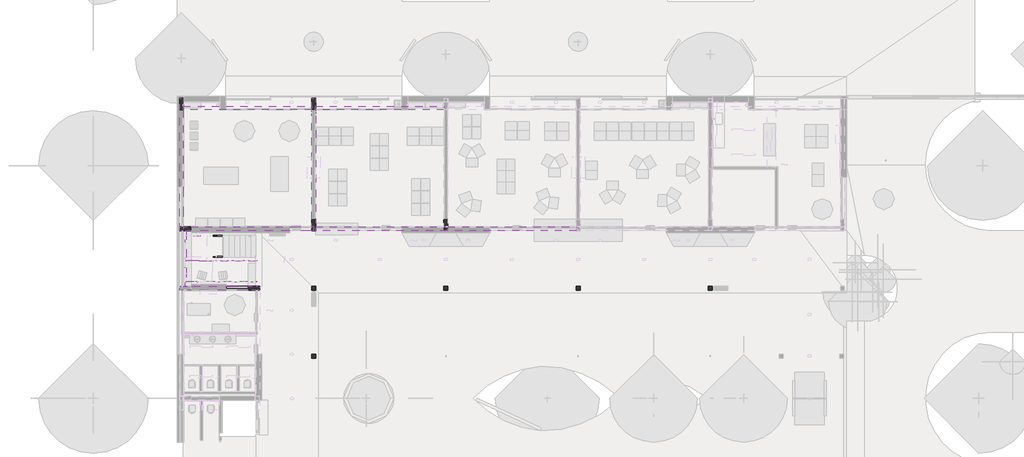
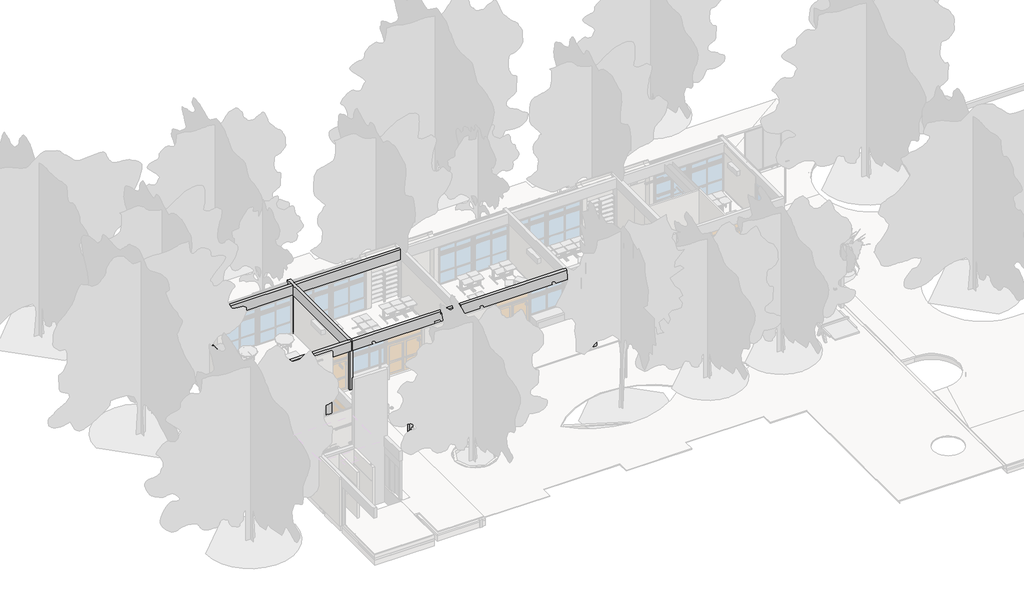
# One storey, part 14 of 22: 34 beams, 11 columns.
"""IFC4 building model written with IfcOpenShell, lengths in millimetres."""

from ifc_helpers import new_model, si_unit, point, frame, frame_2d, origin, place, context, project, spatial, polyline, circle_curve, trimmed, segment, composite_curve, outline, extrude, faceted_brep, transform, mapped, element, save
from components import perfil_upn_120_pet_55000a03, perfil_upn_120_pet_2a6b5f43, perfil_upn_120_pet_00277be9, perfil_upn_120_pet_e11cd0c3, perfil_upn_120_pet_56031ed0, perfil_upn_120_pet_017f4d01, perfil_upn_120_pet_e785cb7a

model = new_model("IFC4")

# Units and contexts
model_context = context("Model", 3, world=origin())
ifc_project = project(units=[si_unit("LENGTHUNIT", "METRE", prefix="MILLI")], contexts=[model_context])

# Site, building, storey
site = spatial("IfcSite", under=ifc_project)
building = spatial("IfcBuilding", under=site)
storey = spatial("IfcBuildingStorey", under=building, Name="PLanta baja", Elevation=0.0)

# Beams
placement = place(None, origin())
perfil_upn_120_pet_shape = perfil_upn_120_pet_55000a03(model_context)
element("IfcBeam", 1, ObjectType="ARES-I-AC-UPN-Perfil acero-PET : Perfil UPN-120-PET", at=placement, inside=storey, context=model_context, shape_type="MappedRepresentation", body=[
    mapped(perfil_upn_120_pet_shape, transform((3910.6625244, 24456.2304035, 1673.8421053), x_axis=(-1.0, 0.0, 0.0), y_axis=(0.0, -1.0, 0.0), z_axis=(0.0, 0.0, 1.0))),
])
perfil_upn_120_pet_2_shape = perfil_upn_120_pet_2a6b5f43(model_context)
element("IfcBeam", 2, ObjectType="ARES-I-AC-UPN-Perfil acero-PET : Perfil UPN-120-PET", at=placement, inside=storey, context=model_context, shape_type="MappedRepresentation", body=[
    mapped(perfil_upn_120_pet_2_shape, transform((5740.2815783, 24456.2304035, 782.5278227), x_axis=(0.8547743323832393, 0.0, -0.518999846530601), y_axis=(0.0, 1.0, 0.0), z_axis=(0.5189998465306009, 0.0, 0.8547743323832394))),
])
perfil_upn_120_pet_3_shape = perfil_upn_120_pet_00277be9(model_context)
element("IfcBeam", 3, ObjectType="ARES-I-AC-UPN-Perfil acero-PET : Perfil UPN-120-PET", at=placement, inside=storey, context=model_context, shape_type="MappedRepresentation", body=[
    mapped(perfil_upn_120_pet_3_shape, transform((5740.2815783, 23364.2304035, 782.5278227), x_axis=(0.8547743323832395, 0.0, -0.5189998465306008), y_axis=(0.0, 1.0, 0.0), z_axis=(0.5189998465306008, 0.0, 0.8547743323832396))),
])
perfil_upn_120_pet_4_shape = perfil_upn_120_pet_e11cd0c3(model_context)
element("IfcBeam", 4, ObjectType="ARES-I-AC-UPN-Perfil acero-PET : Perfil UPN-120-PET", at=placement, inside=storey, context=model_context, shape_type="MappedRepresentation", body=[
    mapped(perfil_upn_120_pet_4_shape, transform((4217.871391, 23151.2304035, 1673.8421053), x_axis=(-1.0, 0.0, 0.0), y_axis=(0.0, -1.0, 0.0), z_axis=(0.0, 0.0, 1.0))),
])
perfil_upn_120_pet_5_shape = perfil_upn_120_pet_56031ed0(model_context)
element("IfcBeam", 5, ObjectType="ARES-I-AC-UPN-Perfil acero-PET : Perfil UPN-120-PET", at=placement, inside=storey, context=model_context, shape_type="MappedRepresentation", body=[
    mapped(perfil_upn_120_pet_5_shape, transform((6062.1716203, 23151.2304035, 2367.281948), x_axis=(0.8547306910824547, 0.0, 0.5190717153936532), y_axis=(0.0, 1.0000000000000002, 0.0), z_axis=(-0.5190717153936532, 0.0, 0.8547306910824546))),
])
perfil_upn_120_pet_6_shape = perfil_upn_120_pet_017f4d01(model_context)
element("IfcBeam", 6, ObjectType="ARES-I-AC-UPN-Perfil acero-PET : Perfil UPN-120-PET", at=placement, inside=storey, context=model_context, shape_type="MappedRepresentation", body=[
    mapped(perfil_upn_120_pet_6_shape, transform((4112.4902739, 22064.2304035, 1673.8421053), x_axis=(-1.0, 0.0, 0.0), y_axis=(0.0, -1.0, 0.0), z_axis=(0.0, 0.0, 1.0))),
])
perfil_upn_120_pet_7_shape = perfil_upn_120_pet_e785cb7a(model_context)
element("IfcBeam", 7, ObjectType="ARES-I-AC-UPN-Perfil acero-PET : Perfil UPN-120-PET", at=placement, inside=storey, context=model_context, shape_type="MappedRepresentation", body=[
    mapped(perfil_upn_120_pet_7_shape, transform((5899.0301815, 22064.2304035, 2268.207342), x_axis=(0.8547306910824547, 0.0, 0.5190717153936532), y_axis=(0.0, 1.0000000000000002, 0.0), z_axis=(-0.5190717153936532, 0.0, 0.8547306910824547))),
])
element("IfcBeam", 8, ObjectType="ARES-I-AC-UPN-Perfil acero-PET : Perfil UPN-140-PET", at=placement, inside=storey, context=model_context, shape_type="SweptSolid", body=[
    extrude(outline(composite_curve([segment(polyline([(1733.8421053, 3549.7173693), (1733.8421053, 3489.7173693), (1730.8580797, 3489.7173693)]), True, "CONTINUOUS"), segment(trimmed(circle_curve(frame_2d((1730.8580797, 3494.7173693)), 5.0), [point((1730.8580797, 3489.7173693))], [point((1725.8740034, 3494.3186432))], False, "CARTESIAN"), True, "CONTINUOUS"), segment(polyline([(1725.8740034, 3494.3186432), (1722.7383091, 3533.5148215)]), True, "CONTINUOUS"), segment(trimmed(circle_curve(frame_2d((1712.7701563, 3532.7173693)), 10.0), [point((1722.7383091, 3533.5148215))], [point((1712.7701563, 3542.7173693))], True, "CARTESIAN"), True, "CONTINUOUS"), segment(polyline([(1712.7701563, 3542.7173693), (1614.9140542, 3542.7173693)]), True, "CONTINUOUS"), segment(trimmed(circle_curve(frame_2d((1614.9140542, 3532.7173693)), 10.0), [point((1614.9140542, 3542.7173693))], [point((1604.9459014, 3533.5148215))], True, "CARTESIAN"), True, "CONTINUOUS"), segment(polyline([(1604.9459014, 3533.5148215), (1601.8102072, 3494.3186432)]), True, "CONTINUOUS"), segment(trimmed(circle_curve(frame_2d((1596.8261308, 3494.7173693)), 5.0), [point((1601.8102072, 3494.3186432))], [point((1596.8261308, 3489.7173693))], False, "CARTESIAN"), True, "CONTINUOUS"), segment(polyline([(1596.8261308, 3489.7173693), (1593.8421053, 3489.7173693), (1593.8421053, 3549.7173693), (1733.8421053, 3549.7173693)]), True, "CONTINUOUS")], self_intersect=False)), frame((0.0, 21819.2304035, 0.0), z_axis=(0.0, 1.0, 0.0), x_axis=(0.0, 0.0, 1.0)), (0.0, 0.0, 1.0), 2901.0),
])
element("IfcBeam", 9, ObjectType="ARES-I-HA-Viga rectangular-PET : Viga-15x36cm-PET", at=placement, inside=storey, context=model_context, shape_type="Brep", body=[
    faceted_brep([(10088.7423693, 28245.2304035, -50.0), (10088.7423693, 28095.2304035, -50.0), (10088.7423693, 28095.2304035, -160.0), (10088.7423693, 28095.2304035, -410.0), (10088.7423693, 28245.2304035, -410.0), (10088.7423693, 28245.2304035, -160.0), (6813.7173693, 28245.2304035, -50.0), (6663.7173693, 28245.2304035, -50.0), (3388.7173693, 28245.2304035, -50.0), (3388.7173693, 28095.2304035, -50.0), (6663.7173693, 28095.2304035, -50.0), (6813.7173693, 28095.2304035, -50.0), (3388.7173693, 28095.2304035, -160.0), (3388.7173693, 28095.2304035, -410.0), (6663.7173693, 28095.2304035, -410.0), (6813.7173693, 28095.2304035, -410.0), (3388.7173693, 28245.2304035, -410.0), (6663.7173693, 28245.2304035, -410.0), (6813.7173693, 28245.2304035, -410.0), (3388.7173693, 28245.2304035, -160.0)], [[[0, 1, 2, 3, 4, 5]], [[1, 0, 6, 7, 8, 9, 10, 11]], [[2, 1, 11, 10, 9, 12, 13, 14, 15, 3]], [[4, 3, 15, 14, 13, 16, 17, 18]], [[5, 4, 18, 17, 16, 19, 8, 7, 6, 0]], [[9, 8, 19, 16, 13, 12]]]),
])
element("IfcBeam", 10, ObjectType="ARES-I-HA-Viga rectangular-PET : Viga-15x36cm-PET", at=placement, inside=storey, context=model_context, shape_type="Brep", body=[
    faceted_brep([(6663.7173693, 24920.2304035, -50.0), (6813.7173693, 24920.2304035, -50.0), (6813.7173693, 28095.2304035, -50.0), (6663.7173693, 28095.2304035, -50.0), (6663.7173693, 28095.2304035, -160.0), (6663.7173693, 28095.2304035, -410.0), (6663.7173693, 24920.2304035, -410.0), (6663.7173693, 24920.2304035, -160.0), (6813.7173693, 28095.2304035, -410.0), (6813.7173693, 24920.2304035, -410.0), (6813.7173693, 28095.2304035, -160.0), (6813.7173693, 24920.2304035, -160.0)], [[[0, 1, 2, 3]], [[3, 4, 5, 6, 7, 0]], [[5, 8, 9, 6]], [[8, 10, 2, 1, 11, 9]], [[5, 4, 3, 2, 10, 8]], [[1, 0, 7, 6, 9, 11]]]),
    faceted_brep([(6663.7173693, 28245.2304035, -50.0), (6663.7173693, 28245.2304035, -160.0), (6663.7173693, 28245.2304035, -410.0), (6813.7173693, 28245.2304035, -410.0), (6813.7173693, 28245.2304035, -160.0), (6813.7173693, 28245.2304035, -50.0), (6663.7173693, 31420.2304035, -50.0), (6663.7173693, 31420.2304035, -160.0), (6663.7173693, 31420.2304035, -410.0), (6813.7173693, 31420.2304035, -410.0), (6813.7173693, 31420.2304035, -160.0), (6813.7173693, 31420.2304035, -50.0)], [[[0, 1, 2, 3, 4, 5]], [[2, 1, 0, 6, 7, 8]], [[3, 2, 8, 9]], [[5, 4, 3, 9, 10, 11]], [[8, 7, 6, 11, 10, 9]], [[5, 11, 6, 0]]]),
])
element("IfcBeam", 11, ObjectType="ARES-I-HA-Viga rectangular-PET : Viga-15x36cm-PET", at=placement, inside=storey, context=model_context, shape_type="Brep", body=[
    faceted_brep([(16988.7423694, 28245.2304035, -50.0), (16988.7423694, 28095.2304035, -50.0), (16988.7423694, 28095.2304035, -160.0), (16988.7423694, 28095.2304035, -410.0), (16988.7423694, 28245.2304035, -410.0), (16988.7423694, 28245.2304035, -160.0), (13713.7173693, 28245.2304035, -50.0), (13563.7173693, 28245.2304035, -50.0), (10288.7173694, 28245.2304035, -50.0), (10288.7173694, 28095.2304035, -50.0), (13563.7173693, 28095.2304035, -50.0), (13713.7173693, 28095.2304035, -50.0), (10288.7173694, 28095.2304035, -410.0), (13563.7173693, 28095.2304035, -410.0), (13713.7173693, 28095.2304035, -410.0), (10288.7173694, 28095.2304035, -160.0), (10288.7173694, 28245.2304035, -410.0), (13563.7173693, 28245.2304035, -410.0), (13713.7173693, 28245.2304035, -410.0), (10288.7173694, 28245.2304035, -160.0)], [[[0, 1, 2, 3, 4, 5]], [[1, 0, 6, 7, 8, 9, 10, 11]], [[12, 13, 14, 3, 2, 1, 11, 10, 9, 15]], [[4, 3, 14, 13, 12, 16, 17, 18]], [[4, 18, 17, 16, 19, 8, 7, 6, 0, 5]], [[9, 8, 19, 16, 12, 15]]]),
])
element("IfcBeam", 12, ObjectType="ARES-I-HA-Viga rectangular-PET : Viga-15x36cm-PET", at=placement, inside=storey, context=model_context, shape_type="Brep", body=[
    faceted_brep([(13713.7173693, 28095.2304035, -50.0), (13563.7173693, 28095.2304035, -50.0), (13563.7173693, 24920.2304035, -50.0), (13713.7173693, 24920.2304035, -50.0), (13563.7173693, 28095.2304035, -160.0), (13563.7173693, 28095.2304035, -410.0), (13563.7173693, 24920.2304035, -410.0), (13563.7173693, 24920.2304035, -160.0), (13713.7173693, 28095.2304035, -410.0), (13713.7173693, 24920.2304035, -410.0), (13713.7173693, 24920.2304035, -160.0), (13713.7173693, 28095.2304035, -160.0)], [[[0, 1, 2, 3]], [[2, 1, 4, 5, 6, 7]], [[5, 8, 9, 6]], [[0, 3, 10, 9, 8, 11]], [[8, 5, 4, 1, 0, 11]], [[3, 2, 7, 6, 9, 10]]]),
    faceted_brep([(13563.7173693, 28245.2304035, -410.0), (13713.7173693, 28245.2304035, -410.0), (13713.7173693, 28245.2304035, -160.0), (13713.7173693, 28245.2304035, -50.0), (13563.7173693, 28245.2304035, -50.0), (13563.7173693, 28245.2304035, -160.0), (13563.7173693, 31420.2304035, -50.0), (13563.7173693, 31420.2304035, -160.0), (13563.7173693, 31420.2304035, -410.0), (13713.7173693, 31420.2304035, -410.0), (13713.7173693, 31420.2304035, -160.0), (13713.7173693, 31420.2304035, -50.0)], [[[0, 1, 2, 3, 4, 5]], [[4, 6, 7, 8, 0, 5]], [[1, 0, 8, 9]], [[1, 9, 10, 11, 3, 2]], [[4, 3, 11, 6]], [[9, 8, 7, 6, 11, 10]]]),
])
element("IfcBeam", 13, ObjectType="ARES-I-HA-Viga rectangular-PET : Viga-15x36cm-PET", at=placement, inside=storey, context=model_context, shape_type="Brep", body=[
    faceted_brep([(13713.7173693, 24720.2304035, -80.0), (13563.7173693, 24720.2304035, -80.0), (13563.7173693, 21820.2304035, -80.0), (13713.7173693, 21820.2304035, -80.0), (13563.7173693, 24720.2304035, -190.0), (13563.7173693, 24720.2304035, -440.0), (13563.7173693, 21820.2304035, -440.0), (13563.7173693, 21820.2304035, -190.0), (13713.7173693, 24720.2304035, -440.0), (13713.7173693, 21820.2304035, -440.0), (13713.7173693, 21820.2304035, -190.0), (13713.7173693, 24720.2304035, -190.0)], [[[0, 1, 2, 3]], [[2, 1, 4, 5, 6, 7]], [[5, 8, 9, 6]], [[0, 3, 10, 9, 8, 11]], [[1, 0, 11, 8, 5, 4]], [[3, 2, 7, 6, 9, 10]]]),
])
element("IfcBeam", 14, ObjectType="ARES-I-HA-Viga rectangular-PET : Viga-15x36cm-PET", at=placement, inside=storey, context=model_context, shape_type="Brep", body=[
    faceted_brep([(20613.7173694, 24720.2304035, -80.0), (20463.7173694, 24720.2304035, -80.0), (20463.7173694, 21820.2304035, -80.0), (20613.7173694, 21820.2304035, -80.0), (20463.7173694, 24720.2304035, -190.0), (20463.7173694, 24720.2304035, -440.0), (20463.7173694, 21820.2304035, -440.0), (20463.7173694, 21820.2304035, -190.0), (20613.7173694, 24720.2304035, -440.0), (20613.7173694, 21820.2304035, -440.0), (20613.7173694, 21820.2304035, -190.0), (20613.7173694, 24720.2304035, -190.0)], [[[0, 1, 2, 3]], [[2, 1, 4, 5, 6, 7]], [[5, 8, 9, 6]], [[0, 3, 10, 9, 8, 11]], [[1, 0, 11, 8, 5, 4]], [[3, 2, 7, 6, 9, 10]]]),
])
element("IfcBeam", 15, ObjectType="ARES-I-HA-Viga rectangular-PET : Viga-15x36cm-PET", at=placement, inside=storey, context=model_context, shape_type="Brep", body=[
    faceted_brep([(27513.7173693, 24720.2304035, -80.0), (27363.7173693, 24720.2304035, -80.0), (27363.7173693, 21820.2304035, -80.0), (27513.7173693, 21820.2304035, -80.0), (27363.7173693, 24720.2304035, -190.0), (27363.7173693, 24720.2304035, -440.0), (27363.7173693, 21820.2304035, -440.0), (27363.7173693, 21820.2304035, -190.0), (27513.7173693, 24720.2304035, -440.0), (27513.7173693, 21820.2304035, -440.0), (27513.7173693, 21820.2304035, -190.0), (27513.7173693, 24720.2304035, -190.0)], [[[0, 1, 2, 3]], [[2, 1, 4, 5, 6, 7]], [[5, 8, 9, 6]], [[0, 3, 10, 9, 8, 11]], [[1, 0, 11, 8, 5, 4]], [[3, 2, 7, 6, 9, 10]]]),
])
element("IfcBeam", 16, ObjectType="ARES-I-HA-Viga rectangular-PET : Viga-20x36cm-PET", at=placement, inside=storey, context=model_context, shape_type="Brep", body=[
    faceted_brep([(10088.7173694, 18070.2304035, -80.0), (10088.7173694, 18270.2304035, -80.0), (7368.7173694, 18270.2304035, -80.0), (7368.7173694, 18070.2304035, -80.0), (10088.7173694, 18270.2304035, -190.0), (10088.7173694, 18270.2304035, -440.0), (7368.7173694, 18270.2304035, -440.0), (7368.7173694, 18270.2304035, -190.0), (10088.7173694, 18070.2304035, -440.0), (7368.7173694, 18070.2304035, -440.0), (10088.7173694, 18070.2304035, -190.0), (7368.7173694, 18070.2304035, -190.0)], [[[0, 1, 2, 3]], [[1, 4, 5, 6, 7, 2]], [[5, 8, 9, 6]], [[8, 10, 0, 3, 11, 9]], [[8, 5, 4, 1, 0, 10]], [[3, 2, 7, 6, 9, 11]]]),
])
element("IfcBeam", 17, ObjectType="ARES-I-HA-Viga rectangular-PET : Viga-20x36cm-PET", at=placement, inside=storey, context=model_context, shape_type="Brep", body=[
    faceted_brep([(7368.7173694, 21820.2304035, -80.0), (7368.7173694, 21620.2304035, -80.0), (10088.7173694, 21620.2304035, -80.0), (10088.7173694, 21820.2304035, -80.0), (10088.7173694, 21820.2304035, -190.0), (10088.7173694, 21820.2304035, -440.0), (7368.7173694, 21820.2304035, -440.0), (7368.7173694, 21820.2304035, -190.0), (7368.7173694, 21620.2304035, -440.0), (10088.7173694, 21620.2304035, -440.0), (7368.7173694, 21620.2304035, -190.0), (10088.7173694, 21620.2304035, -190.0)], [[[0, 1, 2, 3]], [[0, 3, 4, 5, 6, 7]], [[8, 6, 5, 9]], [[2, 1, 10, 8, 9, 11]], [[6, 8, 10, 1, 0, 7]], [[3, 2, 11, 9, 5, 4]]]),
])
element("IfcBeam", 18, ObjectType="ARES-I-HA-Viga rectangular-PET : Viga-20x50cm-PET", at=placement, inside=storey, context=model_context, shape_type="Brep", body=[
    faceted_brep([(10288.7173694, 24720.2304035, -80.0), (10088.7173694, 24720.2304035, -80.0), (10088.7173694, 21820.2304035, -80.0), (10288.7173694, 21820.2304035, -80.0), (10088.7173694, 24720.2304035, -190.0), (10088.7173694, 24720.2304035, -540.0), (10088.7173694, 24720.2304035, -580.0), (10088.7173694, 21820.2304035, -580.0), (10088.7173694, 21820.2304035, -190.0), (10288.7173694, 24720.2304035, -580.0), (10288.7173694, 21820.2304035, -580.0), (10288.7173694, 21820.2304035, -190.0), (10288.7173694, 21820.2304035, -540.0), (10288.7173694, 24720.2304035, -540.0), (10288.7173694, 24720.2304035, -190.0)], [[[0, 1, 2, 3]], [[2, 1, 4, 5, 6, 7, 8]], [[6, 9, 10, 7]], [[0, 3, 11, 12, 10, 9, 13, 14]], [[9, 6, 5, 4, 1, 0, 14, 13]], [[3, 2, 8, 7, 10, 12, 11]]]),
])
element("IfcBeam", 19, ObjectType="ARES-I-HA-Viga rectangular-PET : Viga-20x50cm-PET", at=placement, inside=storey, context=model_context, shape_type="Brep", body=[
    faceted_brep([(16988.7173694, 21720.2304035, -80.0), (17188.7173694, 21720.2304035, -80.0), (17188.7173694, 21820.2304035, -80.0), (17188.7173694, 24720.2304035, -80.0), (16988.7173694, 24720.2304035, -80.0), (16988.7173694, 21820.2304035, -80.0), (16988.7173694, 21720.2304035, -580.0), (16988.7173694, 24720.2304035, -190.0), (16988.7173694, 24720.2304035, -540.0), (16988.7173694, 24720.2304035, -580.0), (16988.7173694, 21820.2304035, -580.0), (17188.7173694, 21720.2304035, -580.0), (17188.7173694, 24720.2304035, -580.0), (17188.7173694, 21820.2304035, -580.0), (17188.7173694, 24720.2304035, -540.0), (17188.7173694, 24720.2304035, -190.0)], [[[0, 1, 2, 3, 4, 5]], [[6, 0, 5, 4, 7, 8, 9, 10]], [[11, 6, 10, 9, 12, 13]], [[1, 11, 13, 12, 14, 15, 3, 2]], [[1, 0, 6, 11]], [[12, 9, 8, 7, 4, 3, 15, 14]]]),
])
element("IfcBeam", 20, ObjectType="ARES-I-HA-Viga rectangular-PET : Viga-20x50cm-PET", at=placement, inside=storey, context=model_context, shape_type="Brep", body=[
    faceted_brep([(23888.7173694, 21720.2304035, -80.0), (24088.7173694, 21720.2304035, -80.0), (24088.7173694, 21820.2304035, -80.0), (24088.7173694, 24720.2304035, -80.0), (23888.7173694, 24720.2304035, -80.0), (23888.7173694, 21820.2304035, -80.0), (23888.7173694, 21720.2304035, -580.0), (23888.7173694, 24720.2304035, -190.0), (23888.7173694, 24720.2304035, -540.0), (23888.7173694, 24720.2304035, -580.0), (23888.7173694, 21820.2304035, -580.0), (24088.7173694, 21720.2304035, -580.0), (24088.7173694, 24720.2304035, -580.0), (24088.7173694, 21820.2304035, -580.0), (24088.7173694, 24720.2304035, -540.0), (24088.7173694, 24720.2304035, -190.0)], [[[0, 1, 2, 3, 4, 5]], [[6, 0, 5, 4, 7, 8, 9, 10]], [[11, 6, 10, 9, 12, 13]], [[1, 11, 13, 12, 14, 15, 3, 2]], [[1, 0, 6, 11]], [[12, 9, 8, 7, 4, 3, 15, 14]]]),
])
element("IfcBeam", 21, ObjectType="ARES-I-HA-Viga rectangular-PET : Viga-20x50cm-PET", at=placement, inside=storey, context=model_context, shape_type="Brep", body=[
    faceted_brep([(30788.7173693, 21720.2304035, -80.0), (30988.7173693, 21720.2304035, -80.0), (30988.7173693, 21820.2304035, -80.0), (30988.7173693, 24720.2304035, -80.0), (30788.7173693, 24720.2304035, -80.0), (30788.7173693, 21820.2304035, -80.0), (30788.7173693, 21720.2304035, -580.0), (30788.7173693, 24720.2304035, -190.0), (30788.7173693, 24720.2304035, -540.0), (30788.7173693, 24720.2304035, -580.0), (30788.7173693, 21820.2304035, -580.0), (30988.7173693, 21720.2304035, -580.0), (30988.7173693, 24720.2304035, -580.0), (30988.7173693, 21820.2304035, -580.0), (30988.7173693, 24720.2304035, -540.0), (30988.7173693, 24720.2304035, -190.0)], [[[0, 1, 2, 3, 4, 5]], [[6, 0, 5, 4, 7, 8, 9, 10]], [[11, 6, 10, 9, 12, 13]], [[1, 11, 13, 12, 14, 15, 3, 2]], [[1, 0, 6, 11]], [[12, 9, 8, 7, 4, 3, 15, 14]]]),
])
element("IfcBeam", 22, ObjectType="ARES-I-HA-Viga rectangular-PET : Viga-20x51cm-PET", at=placement, inside=storey, context=model_context, shape_type="Brep", body=[
    faceted_brep([(7168.7173694, 19220.2304035, -560.0), (7368.7173694, 19220.2304035, -560.0), (7368.7173694, 19220.2304035, -80.0), (7368.7173694, 19220.2304035, -50.0), (7171.4173693, 19220.2304035, -50.0), (7171.4173693, 19220.2304035, -80.0), (7171.4173693, 19220.2304035, -430.0), (7168.7173694, 19220.2304035, -430.0), (7368.7173694, 21620.2304035, -50.0), (7168.7173694, 21620.2304035, -50.0), (7168.7173694, 19420.2304035, -50.0), (7171.4173693, 19420.2304035, -50.0), (7168.7173694, 21620.2304035, -160.0), (7168.7173694, 21620.2304035, -206.6056168), (7168.7173694, 21620.2304035, -560.0), (7168.7173694, 19420.2304035, -430.0), (7168.7173694, 19420.2304035, -211.8306151), (7168.7173694, 19420.2304035, -160.0), (7368.7173694, 21620.2304035, -560.0), (7368.7173694, 21620.2304035, -190.0), (7368.7173694, 21620.2304035, -80.0), (7171.4173693, 19332.9304035, -430.0), (7171.4173693, 19420.2304035, -430.0)], [[[0, 1, 2, 3, 4, 5, 6, 7]], [[8, 9, 10, 11, 4, 3]], [[9, 12, 13, 14, 0, 7, 15, 16, 17, 10]], [[1, 0, 14, 18]], [[3, 2, 1, 18, 19, 20, 8]], [[18, 14, 13, 12, 9, 8, 20, 19]], [[6, 21, 22, 15, 7]], [[22, 11, 10, 17, 16, 15]], [[22, 21, 6, 5, 4, 11]]]),
])
element("IfcBeam", 23, ObjectType="ARES-I-HA-Viga rectangular-PET : Viga-20x51cm-PET", at=placement, inside=storey, context=model_context, shape_type="Brep", body=[
    faceted_brep([(7368.7173693, 24720.2304035, -50.0), (7168.7173693, 24720.2304035, -50.0), (7168.7173693, 21820.2304035, -50.0), (7368.7173693, 21820.2304035, -50.0), (7368.7173693, 24720.2304035, -560.0), (7368.7173693, 24720.2304035, -190.0), (7368.7173693, 24720.2304035, -80.0), (7368.7173693, 21820.2304035, -80.0), (7368.7173693, 21820.2304035, -190.0), (7368.7173693, 21820.2304035, -560.0), (7168.7173693, 24720.2304035, -560.0), (7168.7173693, 21820.2304035, -560.0), (7168.7173693, 24720.2304035, -450.0), (7168.7173693, 21820.2304035, -450.0)], [[[0, 1, 2, 3]], [[4, 5, 6, 0, 3, 7, 8, 9]], [[10, 4, 9, 11]], [[1, 12, 10, 11, 13, 2]], [[0, 6, 5, 4, 10, 12, 1]], [[9, 8, 7, 3, 2, 13, 11]]]),
])
element("IfcBeam", 24, ObjectType="ARES-I-HA-Viga rectangular-PET : Viga-20x60cm-PET", at=placement, inside=storey, context=model_context, shape_type="Brep", body=[
    faceted_brep([(16988.7173694, 21720.2304035, -80.0), (16988.7173694, 21820.2304035, -80.0), (13713.7173693, 21820.2304035, -80.0), (13563.7173693, 21820.2304035, -80.0), (10288.7173694, 21820.2304035, -80.0), (10088.7173694, 21820.2304035, -80.0), (10088.7173694, 21620.2304035, -80.0), (10288.7173693, 21620.2304035, -80.0), (16988.7173694, 21620.2304035, -80.0), (17188.7173694, 21620.2304035, -80.0), (23888.7173694, 21620.2304035, -80.0), (24088.7173694, 21620.2304035, -80.0), (30788.7173693, 21620.2304035, -80.0), (30988.7173693, 21620.2304035, -80.0), (37688.7173693, 21620.2304035, -80.0), (37888.7173693, 21620.2304035, -80.0), (37888.7173693, 21820.2304035, -80.0), (37688.7173693, 21820.2304035, -80.0), (34413.7173693, 21820.2304035, -80.0), (34263.7173693, 21820.2304035, -80.0), (30988.7173693, 21820.2304035, -80.0), (30988.7173693, 21720.2304035, -80.0), (30788.7173693, 21720.2304035, -80.0), (30788.7173693, 21820.2304035, -80.0), (27513.7173693, 21820.2304035, -80.0), (27363.7173693, 21820.2304035, -80.0), (24088.7173694, 21820.2304035, -80.0), (24088.7173694, 21720.2304035, -80.0), (23888.7173694, 21720.2304035, -80.0), (23888.7173694, 21820.2304035, -80.0), (20613.7173694, 21820.2304035, -80.0), (20463.7173694, 21820.2304035, -80.0), (17188.7173694, 21820.2304035, -80.0), (17188.7173694, 21720.2304035, -80.0), (10088.7173694, 21620.2304035, -680.0), (37888.7173693, 21620.2304035, -680.0), (37888.7173693, 21620.2304035, -540.0), (37888.7173693, 21620.2304035, -190.0), (10088.7173694, 21620.2304035, -190.0), (10088.7173694, 21620.2304035, -440.0), (10088.7173694, 21620.2304035, -540.0), (10088.7173694, 21620.2304035, -580.0), (10088.7173694, 21820.2304035, -680.0), (37888.7173693, 21820.2304035, -680.0), (16988.7173694, 21820.2304035, -580.0), (17188.7173694, 21820.2304035, -580.0), (17188.7173694, 21820.2304035, -540.0), (17188.7173694, 21820.2304035, -190.0), (23888.7173694, 21820.2304035, -190.0), (23888.7173694, 21820.2304035, -540.0), (23888.7173694, 21820.2304035, -580.0), (24088.7173694, 21820.2304035, -580.0), (24088.7173694, 21820.2304035, -540.0), (24088.7173694, 21820.2304035, -190.0), (30788.7173693, 21820.2304035, -190.0), (30788.7173693, 21820.2304035, -540.0), (30788.7173693, 21820.2304035, -580.0), (30988.7173693, 21820.2304035, -580.0), (30988.7173693, 21820.2304035, -540.0), (30988.7173693, 21820.2304035, -190.0), (37888.7173693, 21820.2304035, -190.0), (37888.7173693, 21820.2304035, -580.0), (10088.7173694, 21820.2304035, -580.0), (10088.7173694, 21820.2304035, -540.0), (10088.7173694, 21820.2304035, -440.0), (10088.7173694, 21820.2304035, -190.0), (16988.7173694, 21820.2304035, -190.0), (16988.7173694, 21820.2304035, -540.0), (16988.7173694, 21720.2304035, -580.0), (17188.7173694, 21720.2304035, -580.0), (23888.7173694, 21720.2304035, -580.0), (24088.7173694, 21720.2304035, -580.0), (30788.7173693, 21720.2304035, -580.0), (30988.7173693, 21720.2304035, -580.0)], [[[0, 1, 2, 3, 4, 5, 6, 7, 8, 9, 10, 11, 12, 13, 14, 15, 16, 17, 18, 19, 20, 21, 22, 23, 24, 25, 26, 27, 28, 29, 30, 31, 32, 33]], [[34, 35, 36, 37, 15, 14, 13, 12, 11, 10, 9, 8, 7, 6, 38, 39, 40, 41]], [[34, 42, 43, 35]], [[44, 45, 46, 47, 32, 31, 30, 29, 48, 49, 50, 51, 52, 53, 26, 25, 24, 23, 54, 55, 56, 57, 58, 59, 20, 19, 18, 17, 16, 60, 61, 43, 42, 62, 63, 64, 65, 5, 4, 3, 2, 1, 66, 67]], [[0, 68, 44, 67, 66, 1]], [[68, 69, 45, 44]], [[69, 33, 32, 47, 46, 45]], [[68, 0, 33, 69]], [[28, 70, 50, 49, 48, 29]], [[71, 27, 26, 53, 52, 51]], [[70, 28, 27, 71]], [[22, 72, 56, 55, 54, 23]], [[72, 73, 57, 56]], [[73, 21, 20, 59, 58, 57]], [[72, 22, 21, 73]], [[70, 71, 51, 50]], [[6, 5, 65, 64, 63, 62, 42, 34, 41, 40, 39, 38]], [[16, 15, 37, 36, 35, 43, 61, 60]]]),
])
element("IfcBeam", 25, ObjectType="ARES-I-HA-Viga rectangular-PET : Viga-20x65cm-PET", at=placement, inside=storey, context=model_context, shape_type="Brep", body=[
    faceted_brep([(10288.7173694, 31520.2304035, -50.0), (10088.7173694, 31520.2304035, -50.0), (10088.7173694, 31420.2304035, -50.0), (10088.7173694, 28245.2304035, -50.0), (10088.7173694, 28095.2304035, -50.0), (10088.7173694, 24920.2304035, -50.0), (10088.7173694, 24820.2304035, -50.0), (10288.7173694, 24820.2304035, -50.0), (10288.7173694, 24920.2304035, -50.0), (10288.7173694, 28095.2304035, -50.0), (10288.7173694, 28245.2304035, -50.0), (10288.7173694, 31420.2304035, -50.0), (10088.7173694, 31520.2304035, -700.0), (10088.7173694, 31420.2304035, -700.0), (10088.7173694, 24920.2304035, -700.0), (10088.7173694, 24820.2304035, -700.0), (10288.7173694, 31520.2304035, -700.0), (10288.7173694, 31420.2304035, -700.0), (10288.7173694, 24920.2304035, -700.0), (10288.7173694, 24820.2304035, -700.0)], [[[0, 1, 2, 3, 4, 5, 6, 7, 8, 9, 10, 11]], [[12, 13, 14, 15, 6, 5, 4, 3, 2, 1]], [[15, 14, 13, 12, 16, 17, 18, 19]], [[19, 18, 17, 16, 0, 11, 10, 9, 8, 7]], [[0, 16, 12, 1]], [[7, 6, 15, 19]]]),
])
element("IfcBeam", 26, ObjectType="ARES-I-HA-Viga rectangular-PET : Viga-20x65cm-PET", at=placement, inside=storey, context=model_context, shape_type="Brep", body=[
    faceted_brep([(3288.7173693, 21820.2304035, -50.0), (3288.7173693, 21620.2304035, -50.0), (3388.7173693, 21620.2304035, -50.0), (7168.7173694, 21620.2304035, -50.0), (7368.7173694, 21620.2304035, -50.0), (7368.7173694, 21820.2304035, -50.0), (7168.7173693, 21820.2304035, -50.0), (3388.7173693, 21820.2304035, -50.0), (3288.7173693, 21620.2304035, -700.0), (3388.7173693, 21620.2304035, -700.0), (7368.7173694, 21620.2304035, -700.0), (7368.7173694, 21620.2304035, -560.0), (7368.7173694, 21620.2304035, -540.0), (7368.7173694, 21620.2304035, -440.0), (7368.7173694, 21620.2304035, -80.0), (3288.7173693, 21820.2304035, -700.0), (3388.7173693, 21820.2304035, -700.0), (7368.7173694, 21820.2304035, -700.0), (7368.7173694, 21820.2304035, -80.0), (7368.7173694, 21820.2304035, -440.0), (7368.7173694, 21820.2304035, -540.0), (7368.7173694, 21820.2304035, -560.0)], [[[0, 1, 2, 3, 4, 5, 6, 7]], [[1, 8, 9, 10, 11, 12, 13, 14, 4, 3, 2]], [[8, 15, 16, 17, 10, 9]], [[15, 0, 7, 6, 5, 18, 19, 20, 21, 17, 16]], [[0, 15, 8, 1]], [[5, 4, 14, 13, 12, 11, 10, 17, 21, 20, 19, 18]]]),
])
element("IfcBeam", 27, ObjectType="ARES-I-HA-Viga rectangular-PET : Viga-20x66cm-PET", at=placement, inside=storey, context=model_context, shape_type="Brep", body=[
    faceted_brep([(10101.4173694, 31220.2304035, 3260.0), (10101.4173694, 31020.2304035, 3260.0), (10101.4173694, 31020.2304035, 2600.0), (10101.4173694, 31220.2304035, 2600.0), (3376.0173694, 31220.2304035, 3260.0), (3376.0173694, 31220.2304035, 2600.0), (3376.0173694, 31020.2304035, 2600.0), (3376.0173694, 31020.2304035, 3260.0), (10088.7173694, 31220.2304035, 3260.0), (3388.7173693, 31220.2304035, 3260.0), (3388.7173693, 31020.2304035, 3260.0), (10088.7173693, 31020.2304035, 3260.0), (10088.7173694, 31020.2304035, 2600.0)], [[[0, 1, 2, 3]], [[4, 5, 6, 7]], [[1, 0, 8, 9, 4, 7, 10, 11]], [[2, 1, 11, 10, 7, 6, 12]], [[3, 2, 12, 6, 5]], [[0, 3, 5, 4, 9, 8]]]),
])
element("IfcBeam", 28, ObjectType="ARES-I-HA-Viga rectangular-PET : Viga-20x66cm-PET", at=placement, inside=storey, context=model_context, shape_type="Brep", body=[
    faceted_brep([(17001.4173694, 31220.2304035, 3260.0), (17001.4173694, 31020.2304035, 3260.0), (17001.4173694, 31020.2304035, 2600.0), (17001.4173694, 31220.2304035, 2600.0), (10276.0173694, 31220.2304035, 3260.0), (10276.0173694, 31220.2304035, 2600.0), (10276.0173694, 31020.2304035, 2600.0), (10276.0173694, 31020.2304035, 3260.0), (16988.7173694, 31220.2304035, 3260.0), (10288.7173694, 31220.2304035, 3260.0), (10288.7173694, 31020.2304035, 3260.0), (16988.7173694, 31020.2304035, 3260.0), (16988.7173694, 31020.2304035, 2600.0)], [[[0, 1, 2, 3]], [[4, 5, 6, 7]], [[1, 0, 8, 9, 4, 7, 10, 11]], [[2, 1, 11, 10, 7, 6, 12]], [[3, 2, 12, 6, 5]], [[0, 3, 5, 4, 9, 8]]]),
])
element("IfcBeam", 29, ObjectType="ARES-I-HA-Viga rectangular-PET : Viga-20x66cm-PET", at=placement, inside=storey, context=model_context, shape_type="Brep", body=[
    faceted_brep([(10201.4173694, 24920.2304035, 3260.0), (10201.4173694, 24720.2304035, 3260.0), (10201.4173694, 24720.2304035, 3100.0), (10201.4173694, 24720.2304035, 2600.0), (10201.4173694, 24920.2304035, 2600.0), (3201.0173694, 24920.2304035, 3260.0), (3201.0173694, 24920.2304035, 2600.0), (3201.0173694, 24720.2304035, 2600.0), (3201.0173694, 24720.2304035, 3100.0), (3201.0173694, 24720.2304035, 3260.0), (10088.7173693, 24920.2304035, 3260.0), (3788.7173693, 24920.2304035, 3260.0), (3388.7173693, 24920.2304035, 3260.0), (3388.7173694, 24720.2304035, 3260.0), (3788.7173693, 24720.2304035, 3260.0), (3838.7173694, 24720.2304035, 3260.0), (7188.7173693, 24720.2304035, 3260.0), (10088.7173694, 24720.2304035, 3260.0), (3788.7173693, 24720.2304035, 2600.0), (8938.7173694, 24720.2304035, 2600.0), (3788.7173693, 24920.2304035, 2600.0), (8938.7173694, 24920.2304035, 2600.0), (10088.7173694, 24920.2304035, 2600.0)], [[[0, 1, 2, 3, 4]], [[5, 6, 7, 8, 9]], [[1, 0, 10, 11, 12, 5, 9, 13, 14, 15, 16, 17]], [[7, 18, 19, 3, 2, 1, 17, 16, 15, 14, 13, 9, 8]], [[4, 3, 19, 18, 7, 6, 20, 21, 22]], [[0, 4, 22, 21, 20, 6, 5, 12, 11, 10]]]),
])
element("IfcBeam", 30, ObjectType="ARES-I-HA-Viga rectangular-PET : Viga-20x66cm-PET", at=placement, inside=storey, context=model_context, shape_type="Brep", body=[
    faceted_brep([(10288.7173694, 24920.2304035, 2600.0), (10288.7173694, 24720.2304035, 2600.0), (10288.7173694, 24720.2304035, 3100.0), (10288.7173694, 24720.2304035, 3260.0), (10288.7173694, 24920.2304035, 3260.0), (10288.7173694, 24920.2304035, 3100.0), (17188.7173694, 24720.2304035, 3260.0), (17188.7173694, 24920.2304035, 3260.0), (16988.7173694, 24920.2304035, 3260.0), (17188.7173694, 24720.2304035, 2600.0), (17188.7173694, 24720.2304035, 3100.0), (17188.7173694, 24920.2304035, 2600.0), (17188.7173694, 24920.2304035, 3100.0)], [[[0, 1, 2, 3, 4, 5]], [[4, 3, 6, 7, 8]], [[6, 3, 2, 1, 9, 10]], [[1, 0, 11, 9]], [[11, 0, 5, 4, 8, 7, 12]], [[7, 6, 10, 9, 11, 12]]]),
])
element("IfcBeam", 31, ObjectType="ARES-I-HA-Viga rectangular-PET : Viga-20x66cm-PET", at=placement, inside=storey, context=model_context, shape_type="Brep", body=[
    faceted_brep([(24001.4173694, 24920.2304035, 3260.0), (24001.4173694, 24720.2304035, 3260.0), (24001.4173694, 24720.2304035, 3100.0), (24001.4173694, 24720.2304035, 2600.0), (24001.4173694, 24920.2304035, 2600.0), (23888.7173694, 24920.2304035, 3260.0), (17188.7173694, 24920.2304035, 3260.0), (17188.7173694, 24720.2304035, 3260.0), (23888.7173694, 24720.2304035, 3260.0), (17188.7173694, 24720.2304035, 2600.0), (17188.7173694, 24720.2304035, 3100.0), (17188.7173694, 24920.2304035, 2600.0), (23888.7173694, 24920.2304035, 2600.0), (17188.7173694, 24920.2304035, 3100.0)], [[[0, 1, 2, 3, 4]], [[1, 0, 5, 6, 7, 8]], [[9, 3, 2, 1, 8, 7, 10]], [[4, 3, 9, 11, 12]], [[0, 4, 12, 11, 13, 6, 5]], [[11, 9, 10, 7, 6, 13]]]),
])
element("IfcBeam", 32, ObjectType="ARES-I-HA-Viga rectangular-PET : Viga-20x66cm-PET", at=placement, inside=storey, context=model_context, shape_type="Brep", body=[
    faceted_brep([(3188.7173693, 31620.2304035, 3260.0), (3188.7173693, 24720.2304035, 3260.0), (3388.7173693, 24720.2304035, 3260.0), (3388.7173693, 24920.2304035, 3260.0), (3388.7173693, 31020.2304035, 3260.0), (3388.7173693, 31220.2304035, 3260.0), (3388.7173693, 31620.2304035, 3260.0), (3188.7173693, 31620.2304035, 3100.0), (3188.7173693, 31620.2304035, 2600.0), (3188.7173693, 31020.2304035, 2600.0), (3188.7173693, 27020.2304035, 2600.0), (3188.7173693, 24720.2304035, 2600.0), (3188.7173693, 24720.2304035, 3100.0), (3388.7173693, 31620.2304035, 2600.0), (3388.7173693, 31020.2304035, 2600.0), (3388.7173693, 27020.2304035, 2600.0), (3388.7173693, 24720.2304035, 2600.0), (3388.7173693, 31620.2304035, 3100.0), (3388.7173693, 24720.2304035, 3100.0)], [[[0, 1, 2, 3, 4, 5, 6]], [[1, 0, 7, 8, 9, 10, 11, 12]], [[11, 10, 9, 8, 13, 14, 15, 16]], [[16, 15, 14, 13, 17, 6, 5, 4, 3, 2, 18]], [[13, 8, 7, 0, 6, 17]], [[2, 1, 12, 11, 16, 18]]]),
])
element("IfcBeam", 33, ObjectType="ARES-I-HA-Viga rectangular-PET : Viga-20x66cm-PET", at=placement, inside=storey, context=model_context, shape_type="Brep", body=[
    faceted_brep([(7368.7173693, 21620.2304035, 3260.0), (7368.7173693, 21820.2304035, 3260.0), (7188.7173693, 21820.2304035, 3260.0), (6768.7173693, 21820.2304035, 3260.0), (5618.7173693, 21820.2304035, 3260.0), (5568.7173693, 21820.2304035, 3260.0), (3838.7173693, 21820.2304035, 3260.0), (3788.7173693, 21820.2304035, 3260.0), (3388.7173694, 21820.2304035, 3260.0), (3188.7173693, 21820.2304035, 3260.0), (3188.7173693, 21620.2304035, 3260.0), (3388.7173693, 21620.2304035, 3260.0), (3788.7173693, 21620.2304035, 3260.0), (6768.7173693, 21620.2304035, 3260.0), (7168.7173693, 21620.2304035, 3260.0), (3188.7173693, 21620.2304035, 2600.0), (3388.7173693, 21620.2304035, 2600.0), (3788.7173693, 21620.2304035, 2600.0), (5618.7173693, 21620.2304035, 2600.0), (7368.7173693, 21620.2304035, 2600.0), (7368.7173693, 21620.2304035, 3100.0), (3188.7173693, 21620.2304035, 3100.0), (7368.7173693, 21820.2304035, 2600.0), (3188.7173693, 21820.2304035, 2600.0), (3788.7173693, 21820.2304035, 2600.0), (5618.7173693, 21820.2304035, 2600.0), (3188.7173693, 21820.2304035, 3100.0), (7368.7173693, 21820.2304035, 3100.0)], [[[0, 1, 2, 3, 4, 5, 6, 7, 8, 9, 10, 11, 12, 13, 14]], [[15, 16, 17, 18, 19, 20, 0, 14, 13, 12, 11, 10, 21]], [[22, 19, 18, 17, 16, 15, 23, 24, 25]], [[22, 25, 24, 23, 26, 9, 8, 7, 6, 5, 4, 3, 2, 1, 27]], [[1, 0, 20, 19, 22, 27]], [[10, 9, 26, 23, 15, 21]]]),
])
element("IfcBeam", 34, ObjectType="ARES-I-HA-Viga rectangular-PET : Viga-20x66cm-PET", at=placement, inside=storey, context=model_context, shape_type="Brep", body=[
    faceted_brep([(10288.7173694, 31620.2304035, 3260.0), (10088.7173694, 31620.2304035, 3260.0), (10088.7173694, 31220.2304035, 3260.0), (10101.4173694, 31220.2304035, 3260.0), (10101.4173694, 31020.2304035, 3260.0), (10088.7173694, 31020.2304035, 3260.0), (10088.7173694, 30920.2304035, 3260.0), (10088.7173694, 30720.2304035, 3260.0), (10088.7173694, 25320.2304035, 3260.0), (10088.7173694, 24920.2304035, 3260.0), (10201.4173694, 24920.2304035, 3260.0), (10201.4173694, 24720.2304035, 3260.0), (10288.7173694, 24720.2304035, 3260.0), (10288.7173694, 24920.2304035, 3260.0), (10288.7173694, 25320.2304035, 3260.0), (10288.7173694, 30720.2304035, 3260.0), (10288.7173694, 30920.2304035, 3260.0), (10288.7173694, 31020.2304035, 3260.0), (10276.0173694, 31020.2304035, 3260.0), (10276.0173694, 31220.2304035, 3260.0), (10288.7173694, 31220.2304035, 3260.0), (10088.7173694, 24920.2304035, 2600.0), (10088.7173694, 24920.2304035, 3100.0), (10088.7173694, 31020.2304035, 3100.0), (10088.7173694, 31020.2304035, 2600.0), (10088.7173694, 31620.2304035, 2600.0), (10288.7173694, 31620.2304035, 2600.0), (10288.7173694, 31220.2304035, 2600.0), (10276.0173694, 31220.2304035, 2600.0), (10276.0173694, 31020.2304035, 2600.0), (10288.7173694, 31020.2304035, 2600.0), (10288.7173694, 24920.2304035, 2600.0), (10288.7173694, 24720.2304035, 2600.0), (10201.4173694, 24720.2304035, 2600.0), (10201.4173694, 24920.2304035, 2600.0), (10101.4173694, 31020.2304035, 2600.0), (10101.4173694, 31220.2304035, 2600.0), (10088.7173694, 31220.2304035, 2600.0), (10288.7173694, 24720.2304035, 3100.0), (10288.7173694, 31020.2304035, 3100.0), (10201.4173694, 24720.2304035, 3100.0), (10088.7173694, 31620.2304035, 3100.0), (10288.7173694, 31620.2304035, 3100.0), (10088.7173694, 31220.2304035, 3100.0), (10288.7173694, 31220.2304035, 3100.0)], [[[0, 1, 2, 3, 4, 5, 6, 7, 8, 9, 10, 11, 12, 13, 14, 15, 16, 17, 18, 19, 20]], [[21, 22, 9, 8, 7, 6, 5, 23, 24]], [[25, 26, 27, 28, 29, 30, 31, 32, 33, 34, 21, 24, 35, 36, 37]], [[16, 15, 14, 13, 12, 38, 32, 31, 30, 39, 17]], [[12, 11, 40, 33, 32, 38]], [[26, 25, 41, 1, 0, 42]], [[10, 34, 33, 40, 11]], [[34, 10, 9, 22, 21]], [[35, 4, 3, 36]], [[4, 35, 24, 23, 5]], [[36, 3, 2, 43, 37]], [[28, 19, 18, 29]], [[29, 18, 17, 39, 30]], [[19, 28, 27, 44, 20]], [[26, 42, 0, 20, 44, 27]], [[1, 41, 25, 37, 43, 2]]]),
])

# Columns
element("IfcColumn", 35, ObjectType="PIES-RECT-HA-PET : Pilar HA-20x20cm-PET", at=placement, inside=storey, context=model_context, shape_type="SweptSolid", body=[
    extrude(outline(polyline([(10288.7173693, 21820.2304035), (10288.7173693, 21620.2304035), (10088.7173693, 21620.2304035), (10088.7173693, 21820.2304035), (10288.7173693, 21820.2304035)])), frame((0.0, 0.0, -80.0), z_axis=(0.0, 0.0, 1.0), x_axis=(1.0, 0.0, 0.0)), (0.0, 0.0, 1.0), 3180.0),
])
element("IfcColumn", 36, ObjectType="PIES-RECT-HA-PET : Pilar HA-20x20cm-PET", at=placement, inside=storey, context=model_context, shape_type="Brep", body=[
    faceted_brep([(17188.7173694, 21820.2304035, 3100.0), (16988.7173694, 21820.2304035, 3100.0), (16988.7173694, 21620.2304035, 3100.0), (17188.7173694, 21620.2304035, 3100.0), (17188.7173694, 21820.2304035, -80.0), (17188.7173694, 21720.2304035, -80.0), (17188.7173694, 21620.2304035, -80.0), (16988.7173694, 21620.2304035, -80.0), (16988.7173694, 21720.2304035, -80.0), (16988.7173694, 21820.2304035, -80.0)], [[[0, 1, 2, 3]], [[4, 5, 6, 7, 8, 9]], [[1, 0, 4, 9]], [[2, 1, 9, 8, 7]], [[3, 2, 7, 6]], [[0, 3, 6, 5, 4]]]),
])
element("IfcColumn", 37, ObjectType="PIES-RECT-HA-PET : Pilar HA-20x20cm-PET", at=placement, inside=storey, context=model_context, shape_type="SweptSolid", body=[
    extrude(outline(polyline([(24088.7173694, 21820.2304035), (24088.7173694, 21620.2304035), (23888.7173694, 21620.2304035), (23888.7173694, 21820.2304035), (24088.7173694, 21820.2304035)])), frame((0.0, 0.0, -80.0), z_axis=(0.0, 0.0, 1.0), x_axis=(1.0, 0.0, 0.0)), (0.0, 0.0, 1.0), 3180.0),
])
element("IfcColumn", 38, ObjectType="PIES-RECT-HA-PET : Pilar HA-20x20cm-PET", at=placement, inside=storey, context=model_context, shape_type="Brep", body=[
    faceted_brep([(30988.7173693, 21820.2304035, 3100.0), (30788.7173693, 21820.2304035, 3100.0), (30788.7173693, 21620.2304035, 3100.0), (30988.7173693, 21620.2304035, 3100.0), (30988.7173693, 21820.2304035, -80.0), (30988.7173693, 21720.2304035, -80.0), (30988.7173693, 21620.2304035, -80.0), (30788.7173693, 21620.2304035, -80.0), (30788.7173693, 21720.2304035, -80.0), (30788.7173693, 21820.2304035, -80.0)], [[[0, 1, 2, 3]], [[4, 5, 6, 7, 8, 9]], [[1, 0, 4, 9]], [[2, 1, 9, 8, 7]], [[3, 2, 7, 6]], [[0, 3, 6, 5, 4]]]),
])
element("IfcColumn", 39, ObjectType="PIES-RECT-HA-PET : Pilar HA-20x20cm-PET", at=placement, inside=storey, context=model_context, shape_type="SweptSolid", body=[
    extrude(outline(polyline([(10288.7173693, 18270.2304035), (10288.7173693, 18070.2304035), (10088.7173693, 18070.2304035), (10088.7173693, 18270.2304035), (10288.7173693, 18270.2304035)])), frame((0.0, 0.0, -80.0), z_axis=(0.0, 0.0, 1.0), x_axis=(1.0, 0.0, 0.0)), (0.0, 0.0, 1.0), 3180.0),
])
element("IfcColumn", 40, ObjectType="PIES-RECT-HA-PET : Pilar HA-20x60cm-PET", at=placement, inside=storey, context=model_context, shape_type="Brep", body=[
    faceted_brep([(3788.7173693, 24720.2304035, 2600.0), (3788.7173693, 24920.2304035, 2600.0), (3201.0173694, 24920.2304035, 2600.0), (3188.7173693, 24920.2304035, 2600.0), (3188.7173693, 24720.2304035, 2600.0), (3201.0173694, 24720.2304035, 2600.0), (3788.7173693, 24720.2304035, -50.0), (3188.7173693, 24720.2304035, -50.0), (3188.7173693, 24920.2304035, -50.0), (3788.7173693, 24920.2304035, -50.0)], [[[0, 1, 2, 3, 4, 5]], [[6, 7, 8, 9]], [[1, 0, 6, 9]], [[3, 2, 1, 9, 8]], [[4, 3, 8, 7]], [[0, 5, 4, 7, 6]]]),
])
element("IfcColumn", 41, ObjectType="PIES-RECT-HA-PET : Pilar HA-20x60cm-PET", at=placement, inside=storey, context=model_context, shape_type="SweptSolid", body=[
    extrude(outline(polyline([(10288.7173694, 25320.2304035), (10288.7173694, 24720.2304035), (10088.7173694, 24720.2304035), (10088.7173694, 25320.2304035), (10288.7173694, 25320.2304035)])), frame((0.0, 0.0, -50.0), z_axis=(0.0, 0.0, 1.0), x_axis=(1.0, 0.0, 0.0)), (0.0, 0.0, 1.0), 2650.0),
])
element("IfcColumn", 42, ObjectType="PIES-RECT-HA-PET : Pilar HA-20x60cm-PET", at=placement, inside=storey, context=model_context, shape_type="Brep", body=[
    faceted_brep([(17188.7173694, 25320.2304035, 2600.0), (16988.7173694, 25320.2304035, 2600.0), (16988.7173694, 24910.2304035, 2600.0), (16988.7173694, 24720.2304035, 2600.0), (17188.7173694, 24720.2304035, 2600.0), (17188.7173694, 24910.2304035, 2600.0), (17188.7173694, 25320.2304035, -50.0), (17188.7173694, 24920.2304035, -50.0), (17188.7173694, 24720.2304035, -50.0), (16988.7173694, 24720.2304035, -50.0), (16988.7173694, 24920.2304035, -50.0), (16988.7173694, 25320.2304035, -50.0)], [[[0, 1, 2, 3, 4, 5]], [[6, 7, 8, 9, 10, 11]], [[1, 0, 6, 11]], [[3, 2, 1, 11, 10, 9]], [[4, 3, 9, 8]], [[0, 5, 4, 8, 7, 6]]]),
])
element("IfcColumn", 43, ObjectType="PIES-RECT-HA-PET : Pilar HA-20x60cm-PET", at=placement, inside=storey, context=model_context, shape_type="Brep", body=[
    faceted_brep([(3388.7173693, 31620.2304035, 2600.0), (3188.7173693, 31620.2304035, 2600.0), (3188.7173693, 31020.2304035, 2600.0), (3376.0173694, 31020.2304035, 2600.0), (3388.7173693, 31020.2304035, 2600.0), (3388.7173693, 31620.2304035, -50.0), (3388.7173693, 31420.2304035, -50.0), (3388.7173693, 31020.2304035, -50.0), (3188.7173693, 31020.2304035, -50.0), (3188.7173693, 31620.2304035, -50.0)], [[[0, 1, 2, 3, 4]], [[5, 6, 7, 8, 9]], [[1, 0, 5, 9]], [[2, 1, 9, 8]], [[4, 3, 2, 8, 7]], [[0, 4, 7, 6, 5]]]),
])
element("IfcColumn", 44, ObjectType="PIES-RECT-HA-PET : Pilar HA-20x60cm-PET", at=placement, inside=storey, context=model_context, shape_type="Brep", body=[
    faceted_brep([(10288.7173694, 31620.2304035, 2600.0), (10088.7173694, 31620.2304035, 2600.0), (10088.7173694, 31020.2304035, 2600.0), (10101.4173694, 31020.2304035, 2600.0), (10276.0173694, 31020.2304035, 2600.0), (10288.7173694, 31020.2304035, 2600.0), (10288.7173694, 31620.2304035, -50.0), (10288.7173694, 31020.2304035, -50.0), (10088.7173694, 31020.2304035, -50.0), (10088.7173694, 31620.2304035, -50.0)], [[[0, 1, 2, 3, 4, 5]], [[6, 7, 8, 9]], [[1, 0, 6, 9]], [[2, 1, 9, 8]], [[5, 4, 3, 2, 8, 7]], [[0, 5, 7, 6]]]),
])
element("IfcColumn", 45, ObjectType="PIES-RECT-HA-PET : Pilar HA-60x20cm-PET", at=placement, inside=storey, context=model_context, shape_type="SweptSolid", body=[
    extrude(outline(polyline([(7368.7173693, 21820.2304035), (7368.7173693, 21620.2304035), (6768.7173693, 21620.2304035), (6768.7173693, 21820.2304035), (7368.7173693, 21820.2304035)])), frame((0.0, 0.0, -50.0), z_axis=(0.0, 0.0, 1.0), x_axis=(1.0, 0.0, 0.0)), (0.0, 0.0, 1.0), 2650.0),
])

save(model, "model.ifc")
